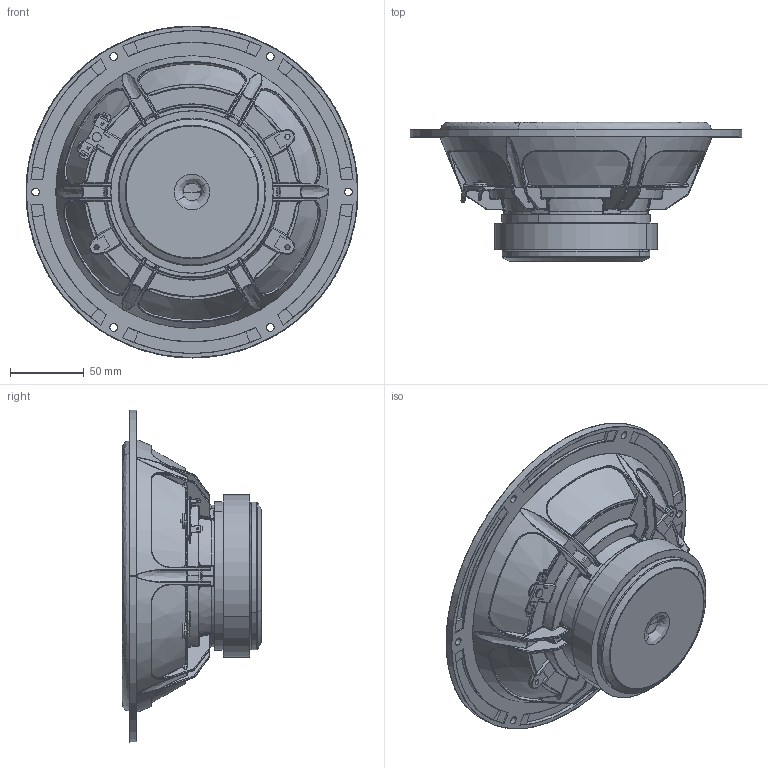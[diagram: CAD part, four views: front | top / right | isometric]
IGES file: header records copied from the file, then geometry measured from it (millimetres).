
Start section: SolidWorks IGES file using analytic representation for surfaces
Global section: file name: W:\TT\WEB 3D enheder\WEB 22W_4534G00\22W-4534G00.IGS; native system: SolidWorks 2019; preprocessor: SolidWorks 2019; author: mhn; date: 201022.113049; units: millimetre
Bounding box: 225 x 94.45 x 225 mm (x, y, z)
Surface area: 165299.1 mm2 (no closed solid volume)
Topology: 0 solids, 0 shells, 1321 faces, 13165 edges, 13057 vertices
Faces by surface type: bspline 772, revolution 549
